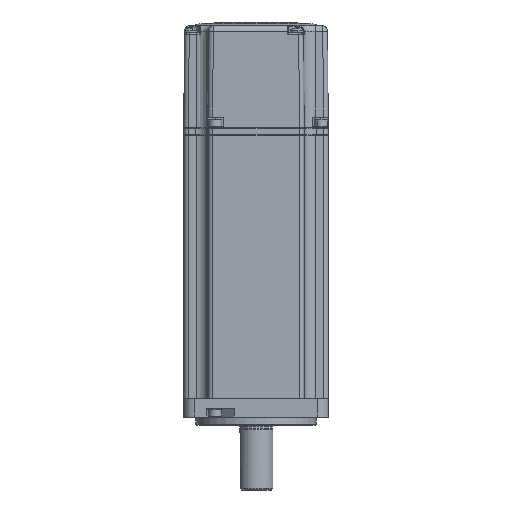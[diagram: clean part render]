
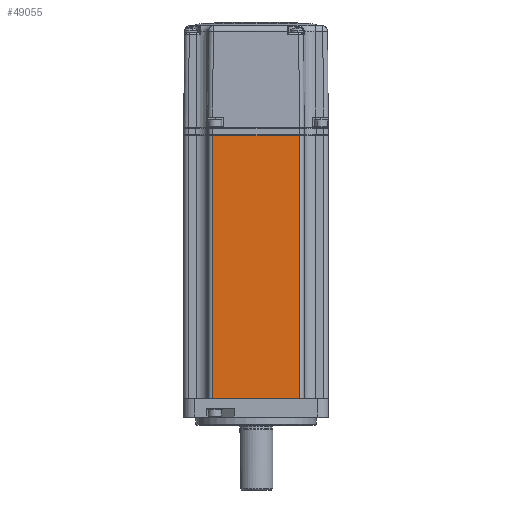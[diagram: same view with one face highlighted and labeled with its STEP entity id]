
A CAD part, front view. The second image highlights one B-rep face of the part: STEP entity #49055.
In plain terms, the highlighted planar face has unit normal (0, -1, 0).
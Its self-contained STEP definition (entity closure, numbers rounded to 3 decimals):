
#346 = CARTESIAN_POINT ( 'NONE',  ( -20., -30., 97.75 ) ) ;
#348 = PLANE ( 'NONE',  #21563 ) ;
#351 = DIRECTION ( 'NONE',  ( 0., 1., 0. ) ) ;
#352 = DIRECTION ( 'NONE',  ( -1., 0., 0. ) ) ;
#4158 = EDGE_CURVE ( 'NONE', #17635, #17627, #39922, .T. ) ;
#4159 = EDGE_CURVE ( 'NONE', #17460, #17662, #39928, .T. ) ;
#4170 = EDGE_CURVE ( 'NONE', #17635, #17662, #39981, .T. ) ;
#4260 = EDGE_CURVE ( 'NONE', #17460, #17627, #40373, .T. ) ;
#11021 = FACE_OUTER_BOUND ( 'NONE', #13538, .T. ) ;
#13538 = EDGE_LOOP ( 'NONE', ( #35613, #34848, #34853, #21970 ) ) ;
#17396 = CARTESIAN_POINT ( 'NONE',  ( -18., -30., -13. ) ) ;
#17433 = CARTESIAN_POINT ( 'NONE',  ( -18., -30., 96.5 ) ) ;
#17443 = CARTESIAN_POINT ( 'NONE',  ( 18., -30., 96.5 ) ) ;
#17460 = VERTEX_POINT ( 'NONE', #17606 ) ;
#17606 = CARTESIAN_POINT ( 'NONE',  ( 18., -30., -13. ) ) ;
#17627 = VERTEX_POINT ( 'NONE', #17443 ) ;
#17635 = VERTEX_POINT ( 'NONE', #17433 ) ;
#17662 = VERTEX_POINT ( 'NONE', #17396 ) ;
#21563 = AXIS2_PLACEMENT_3D ( 'NONE', #346, #351, #352 ) ;
#21970 = ORIENTED_EDGE ( 'NONE', *, *, #4170, .T. ) ;
#31794 = DIRECTION ( 'NONE',  ( -1., 0., 0. ) ) ;
#31831 = CARTESIAN_POINT ( 'NONE',  ( -18., -30., 97.75 ) ) ;
#32635 = CARTESIAN_POINT ( 'NONE',  ( -30., -30., 96.5 ) ) ;
#32640 = CARTESIAN_POINT ( 'NONE',  ( 30., -30., -13. ) ) ;
#32642 = DIRECTION ( 'NONE',  ( 1., 0., 0. ) ) ;
#32837 = DIRECTION ( 'NONE',  ( 0., 0., -1. ) ) ;
#34848 = ORIENTED_EDGE ( 'NONE', *, *, #4260, .T. ) ;
#34853 = ORIENTED_EDGE ( 'NONE', *, *, #4158, .F. ) ;
#35613 = ORIENTED_EDGE ( 'NONE', *, *, #4159, .F. ) ;
#39922 = LINE ( 'NONE', #32635, #39930 ) ;
#39928 = LINE ( 'NONE', #32640, #39937 ) ;
#39930 = VECTOR ( 'NONE', #32642, 1000. ) ;
#39937 = VECTOR ( 'NONE', #31794, 1000. ) ;
#39981 = LINE ( 'NONE', #31831, #39991 ) ;
#39991 = VECTOR ( 'NONE', #32837, 1000. ) ;
#40373 = LINE ( 'NONE', #43817, #40402 ) ;
#40402 = VECTOR ( 'NONE', #43575, 1000. ) ;
#43575 = DIRECTION ( 'NONE',  ( 0., 0., 1. ) ) ;
#43817 = CARTESIAN_POINT ( 'NONE',  ( 18., -30., 97.75 ) ) ;
#49055 = ADVANCED_FACE ( 'NONE', ( #11021 ), #348, .F. ) ;
